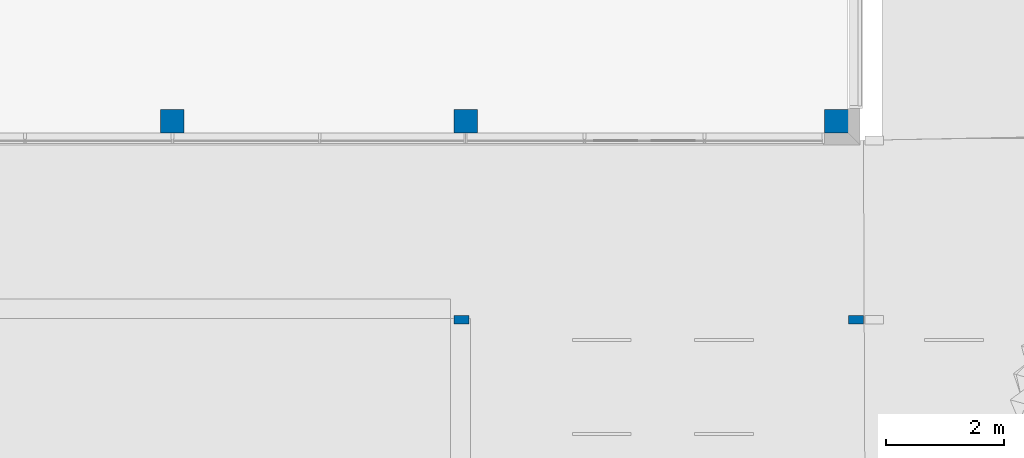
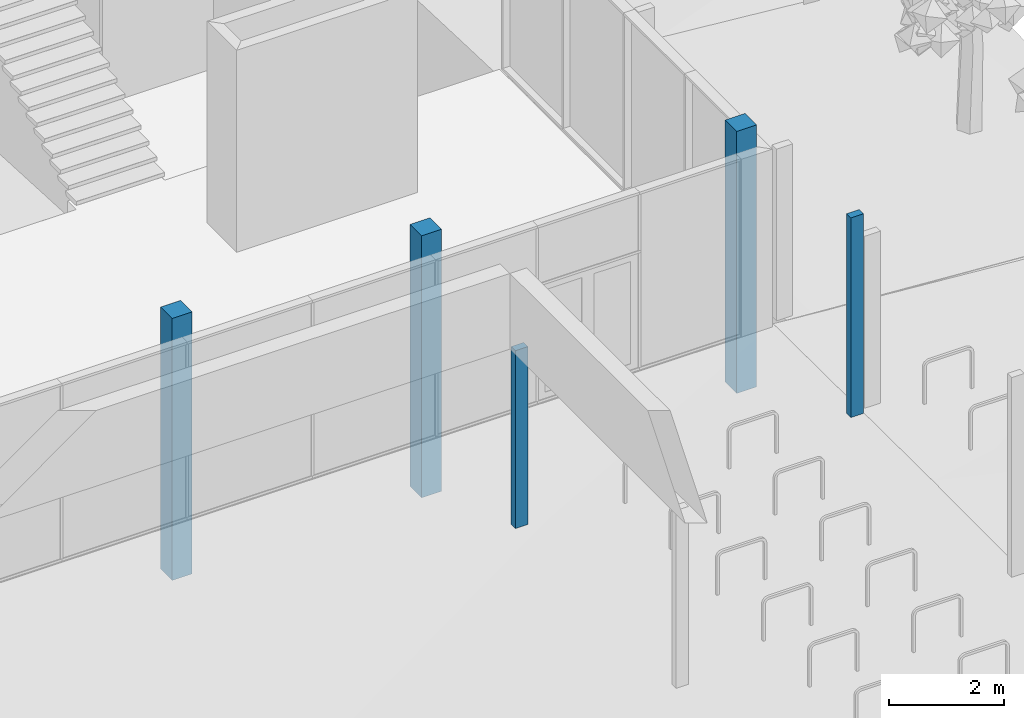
# One storey, part 3 of 69: 5 columns.
"""IFC2X3 building model written with IfcOpenShell, lengths in millimetres."""

from ifc_helpers import new_model, entity, si_unit, converted_unit, derived_unit, money_unit, direction, frame, origin_with_axes, origin_2d_with_axis, place, context, subcontext, project, spatial, rectangle, extrude, material, type_object, element, save


model = new_model("IFC2X3")

# Units and contexts
model_context = context("Model", 3, precision=0.01, world=origin_with_axes(), true_north=direction((0.0, 1.0)))
body_context = subcontext(model_context, "Body", "Model", "MODEL_VIEW")
ifc_project = project(units=[si_unit("LENGTHUNIT", "METRE", prefix="MILLI"), si_unit("AREAUNIT", "SQUARE_METRE"), si_unit("VOLUMEUNIT", "CUBIC_METRE"), converted_unit("PLANEANGLEUNIT", "DEGREE", entity("IfcPlaneAngleMeasure", 0.0174532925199), si_unit("PLANEANGLEUNIT", "RADIAN"), dimensions=[0, 0, 0, 0, 0, 0, 0]), si_unit("SOLIDANGLEUNIT", "STERADIAN"), money_unit("EUR"), converted_unit("TIMEUNIT", "Year", entity("IfcTimeMeasure", 31556926.0), si_unit("TIMEUNIT", "SECOND"), dimensions=[0, 0, 1, 0, 0, 0, 0]), si_unit("MASSUNIT", "GRAM", prefix="KILO"), si_unit("THERMODYNAMICTEMPERATUREUNIT", "DEGREE_CELSIUS"), si_unit("LUMINOUSINTENSITYUNIT", "LUMEN"), si_unit("ENERGYUNIT", "JOULE", prefix="MEGA"), derived_unit("THERMALCONDUCTANCEUNIT", [(si_unit("POWERUNIT", "WATT"), 1), (si_unit("LENGTHUNIT", "METRE"), -1), (si_unit("THERMODYNAMICTEMPERATUREUNIT", "KELVIN"), -1)]), derived_unit("SPECIFICHEATCAPACITYUNIT", [(si_unit("ENERGYUNIT", "JOULE"), 1), (si_unit("MASSUNIT", "GRAM", prefix="KILO"), -1), (si_unit("THERMODYNAMICTEMPERATUREUNIT", "KELVIN"), -1)]), derived_unit("MASSDENSITYUNIT", [(si_unit("MASSUNIT", "GRAM", prefix="KILO"), 1), (si_unit("VOLUMEUNIT", "CUBIC_METRE"), -1)])], contexts=[model_context])

# Site, building, storey
site_placement = place(None, origin_with_axes())
site = spatial("IfcSite", under=ifc_project, at=site_placement, Name="Puškini 31, Narva", CompositionType="ELEMENT")
building_placement = place(site_placement, origin_with_axes())
building = spatial("IfcBuilding", under=site, at=building_placement, Name="Narva Riigigümnaasium", CompositionType="ELEMENT")
storey_placement = place(building_placement, origin_with_axes())
storey = spatial("IfcBuildingStorey", under=building, at=storey_placement, Name="1.korrus 0.00", CompositionType="ELEMENT", Elevation=0.0)

# Columns
ifc_material_1 = material(Name="Betoon element")
column_type_1 = type_object("IfcColumnType", Name="Betoon element 400 x 400", PredefinedType="COLUMN")
for number, where, z_axis, x_axis, name in (
    (1, (54002.0, 150300.00001, -1320.0), (0.0, 0.0, 1.0), (0.0, 1.0, 0.0), "Post"),
    (2, (47699.9999942, 150300.00001, -1320.0), (0.0, 0.0, 1.0), (0.0, 1.0, 0.0), "Post"),
    (3, (42709.8571384, 150300.00001, -1320.0), (0.0, 0.0, 1.0), (0.0, 1.0, 0.0), "Post"),
):
    element("IfcColumn", number, at=place(storey_placement, frame(where, z_axis=z_axis, x_axis=x_axis)), inside=storey, type_object=column_type_1, material=ifc_material_1, Name=name, ObjectType="COLUMN", context=body_context, shape_type="SweptSolid", body=[
        extrude(rectangle(XDim=400.0, YDim=400.0, at=origin_2d_with_axis()), origin_with_axes(), (0.0, 0.0, 1.0), 5540.0),
    ])
ifc_material_2 = material(Name="ET-05_Teras")
column_type_2 = type_object("IfcColumnType", Name="ET-05_Teras 150 x 250", PredefinedType="COLUMN")
column_1_placement = place(storey_placement, frame((54334.9999894, 146925.000001, 0.0), z_axis=(0.0, 0.0, 1.0), x_axis=(0.0, -1.0, 0.0)))
element("IfcColumn", 4, at=column_1_placement, inside=storey, type_object=column_type_2, material=ifc_material_2, Name="POST", ObjectType="COLUMN", context=body_context, shape_type="SweptSolid", body=[
    extrude(rectangle(XDim=150.0, YDim=250.000023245, at=origin_2d_with_axis()), origin_with_axes(), (0.0, 0.0, 1.0), 4220.0),
])
column_2_placement = place(storey_placement, frame((47625.0000115, 146925.000629, 0.0), z_axis=(0.0, 0.0, 1.0), x_axis=(0.0, -1.0, 0.0)))
element("IfcColumn", 5, at=column_2_placement, inside=storey, type_object=column_type_2, material=ifc_material_2, Name="POST", ObjectType="COLUMN", context=body_context, shape_type="SweptSolid", body=[
    extrude(rectangle(XDim=150.001257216, YDim=250.000023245, at=origin_2d_with_axis()), origin_with_axes(), (0.0, 0.0, 1.0), 3759.99996403),
])

save(model, "model.ifc")
